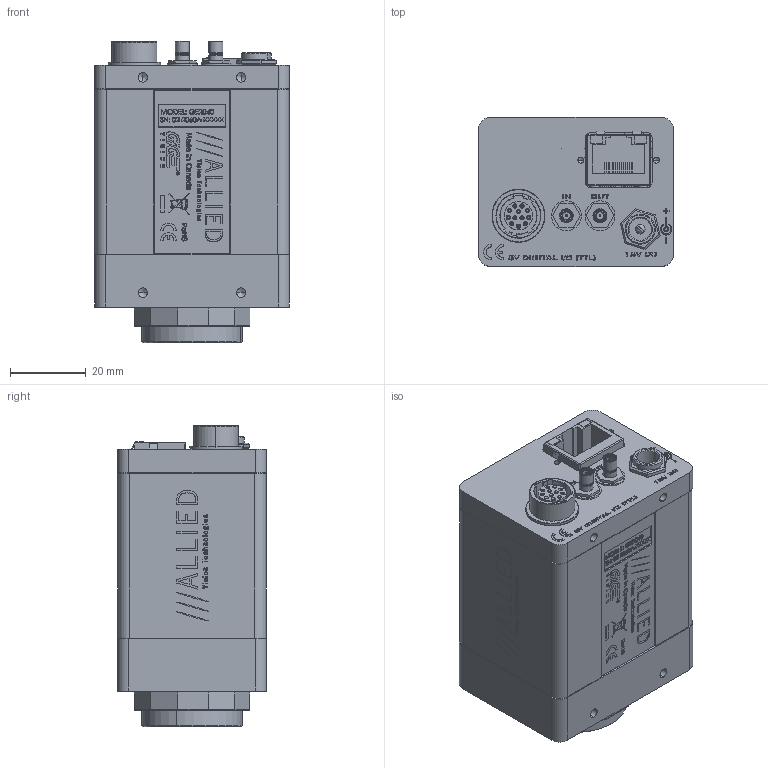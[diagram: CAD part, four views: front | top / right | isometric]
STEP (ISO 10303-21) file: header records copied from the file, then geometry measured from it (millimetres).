
FILE_DESCRIPTION (( 'STEP AP214' ), '1' );
FILE_NAME ('GE2040M CMOUNT.STEP', '2013-07-31T22:03:27', ( '' ), ( '' ), 'SwSTEP 2.0', 'SolidWorks 2013', '' );
FILE_SCHEMA (( 'AUTOMOTIVE_DESIGN' ));
Length unit declared in the file: millimetre
Products named in the file (34): 140034-SWITCHCRAFT P10149 WITH WIRE; 270006-JUMPER WIRE 18MM LONG; 740047A-A GE2040M LABEL PRINT; 140034-SWITCHCRAFT P10149; 740031B-GE SERIES LABEL; 260010-HIROSE HR10A-10R-12SB NUT; 100089A - GE2040M FRONT ASSY CMOUNT; 260014-SWITCHCRAFT PC712A; 110051AA-GE2040 DUST SHIELD GASKET; 260010-HIROSE HR10A-10R-12SB WASHER; 220086-KODAK KAI-4021M; 260010-HIROSE HR10A-10R-12SB; KODAK KAI-4021M BODY; 110033B-C GE BACK PLATE; KODAK KAI-4021M WINDOW; 140002-KEYSTONE 349; 110003AC-CV CMOUNT RING; 100000AA-CV SMB GROUNDING ASSEMBLY; 110041A-GE2040 FRONT PLATE; 140001-AMPHENOL 903-10409-1; 110031A-B EC-CCD LOCKING RING; 270006-JUMPER WIRE MODIFIED; 110036B GE COVER EXTRUDED SHORT WITH LOGO_Finished; 260009-AMPHENOL 903-406J-51R; 140007-screw socket head cap #4-40x2; 140000-AMPHENOL 903-10408-1; 100137A - GE CAMERA BACK ASSEMBLY - for GE2040; 140015-screw pan head phillips 4-40 x 0.1875; 200031B-A GE INTERFACE PCB ASSY; 140008-washer spring lock #4; 260029 BELFUSE 0826-1C1T-23; 100051B - GE BACKPLATE ASSY; GE2040M CMOUNT; 260014-SWITCHCRAFT PC712A NUT
Assembly tree (47 placements, depth 5):
  GE2040M CMOUNT
    100137A - GE CAMERA BACK ASSEMBLY - for GE2040
      140008-washer spring lock #4  x2
      140015-screw pan head phillips 4-40 x 0.1875
      100051B - GE BACKPLATE ASSY
        140000-AMPHENOL 903-10408-1  x2
        260009-AMPHENOL 903-406J-51R  x2
        100000AA-CV SMB GROUNDING ASSEMBLY  x2
          270006-JUMPER WIRE MODIFIED
          140001-AMPHENOL 903-10409-1
        140002-KEYSTONE 349  x4
        110033B-C GE BACK PLATE
        260010-HIROSE HR10A-10R-12SB
        260010-HIROSE HR10A-10R-12SB WASHER
        260014-SWITCHCRAFT PC712A
        260010-HIROSE HR10A-10R-12SB NUT
        140034-SWITCHCRAFT P10149 WITH WIRE
          140034-SWITCHCRAFT P10149
          270006-JUMPER WIRE 18MM LONG
        260014-SWITCHCRAFT PC712A NUT
      200031B-A GE INTERFACE PCB ASSY
        260029 BELFUSE 0826-1C1T-23
    140007-screw socket head cap #4-40x2  x4
    110036B GE COVER EXTRUDED SHORT WITH LOGO_Finished
    140008-washer spring lock #4  x4
    100089A - GE2040M FRONT ASSY CMOUNT
      110031A-B EC-CCD LOCKING RING
      110041A-GE2040 FRONT PLATE
      110003AC-CV CMOUNT RING
      220086-KODAK KAI-4021M
        KODAK KAI-4021M WINDOW
        KODAK KAI-4021M BODY
      110051AA-GE2040 DUST SHIELD GASKET
    740031B-GE SERIES LABEL
    740047A-A GE2040M LABEL PRINT
Bounding box: 51.56 x 39.37 x 79.86 mm (x, y, z)
Volume: 47426 mm3; surface area: 67709.4 mm2
Topology: 72 solids, 72 shells, 4043 faces, 10340 edges, 6731 vertices
Faces by surface type: plane 2326, bspline 894, cylinder 583, cone 240
Entity records: 190666 total; most frequent: CARTESIAN_POINT 59215, ORIENTED_EDGE 19534, DIRECTION 15295, EDGE_CURVE 9767, LINE 6789, VECTOR 6789, VERTEX_POINT 6389, AXIS2_PLACEMENT_3D 4253
